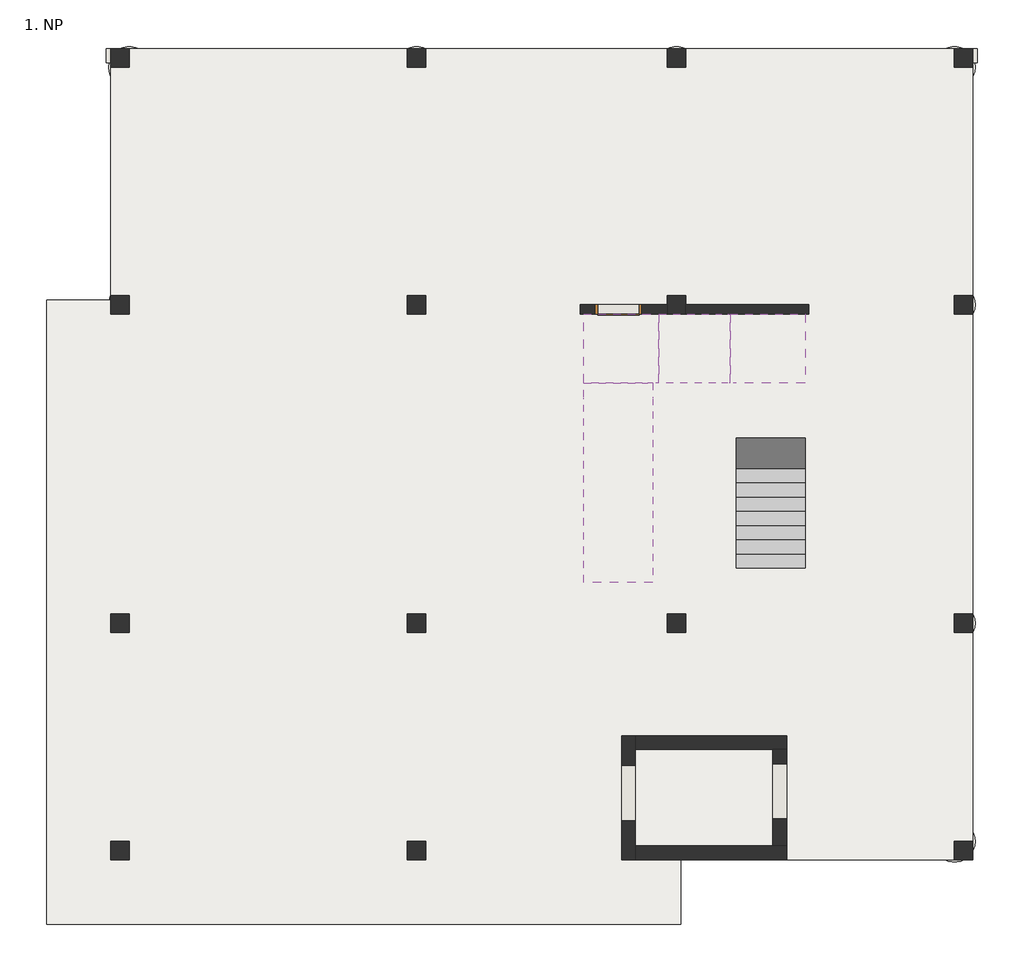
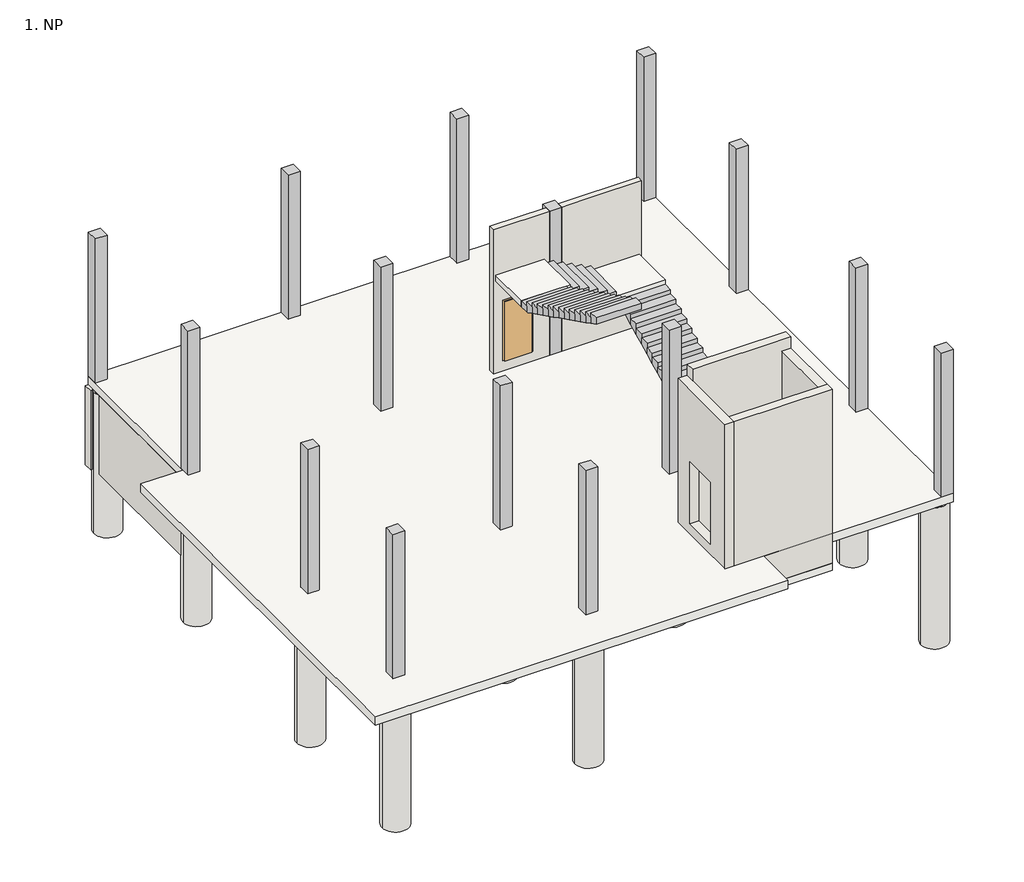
# One storey: 19 slabs, 15 columns, 9 walls, 3 stair flights, 1 door.
"""IFC4 building model written with IfcOpenShell, lengths in millimetres."""

from ifc_helpers import new_model, si_unit, frame, origin, place, context, project, spatial, polyline, outline, extrude, faceted_brep, transform, mapped, element, save
from components import door_900_x_2100_mm_d3767adf, slab_eaf7851d

model = new_model("IFC4")

# Units and contexts
model_context = context("Model", 3, world=origin())
ifc_project = project(units=[si_unit("LENGTHUNIT", "METRE", prefix="MILLI")], contexts=[model_context])

# Site, building, storey
site = spatial("IfcSite", under=ifc_project)
building = spatial("IfcBuilding", under=site)
storey = spatial("IfcBuildingStorey", under=building, Name="1. NP", Elevation=0.0)

# Columns
placement = place(None, origin())
element("IfcColumn", 1, ObjectType="K_Sloup obdélník : 400 x 400 mm", at=placement, inside=storey, context=model_context, shape_type="SweptSolid", body=[
    extrude(outline(polyline([(-9527.9308562, -5396.7473289), (-9527.9308562, -5796.7473289), (-9927.9308562, -5796.7473289), (-9927.9308562, -5396.7473289), (-9527.9308562, -5396.7473289)])), frame((0.0, 0.0, -350.0), z_axis=(0.0, 0.0, 1.0), x_axis=(1.0, 0.0, 0.0)), (0.0, 0.0, 1.0), 5100.0),
])
element("IfcColumn", 2, ObjectType="K_Sloup obdélník : 400 x 400 mm", at=placement, inside=storey, context=model_context, shape_type="SweptSolid", body=[
    extrude(outline(polyline([(-3077.9308562, -5396.7473289), (-3077.9308562, -5796.7473289), (-3477.9308562, -5796.7473289), (-3477.9308562, -5396.7473289), (-3077.9308562, -5396.7473289)])), frame((0.0, 0.0, -350.0), z_axis=(0.0, 0.0, 1.0), x_axis=(1.0, 0.0, 0.0)), (0.0, 0.0, 1.0), 5100.0),
])
element("IfcColumn", 3, ObjectType="K_Sloup obdélník : 400 x 400 mm", at=placement, inside=storey, context=model_context, shape_type="SweptSolid", body=[
    extrude(outline(polyline([(8822.0691438, -5396.7473289), (8822.0691438, -5796.7473289), (8422.0691438, -5796.7473289), (8422.0691438, -5396.7473289), (8822.0691438, -5396.7473289)])), frame((0.0, 0.0, -350.0), z_axis=(0.0, 0.0, 1.0), x_axis=(1.0, 0.0, 0.0)), (0.0, 0.0, 1.0), 5100.0),
])
element("IfcColumn", 4, ObjectType="K_Sloup obdélník : 400 x 400 mm", at=placement, inside=storey, context=model_context, shape_type="SweptSolid", body=[
    extrude(outline(polyline([(-9527.9308562, -446.7473314), (-9527.9308562, -846.7473314), (-9927.9308562, -846.7473314), (-9927.9308562, -446.7473314), (-9527.9308562, -446.7473314)])), frame((0.0, 0.0, -350.0), z_axis=(0.0, 0.0, 1.0), x_axis=(1.0, 0.0, 0.0)), (0.0, 0.0, 1.0), 5100.0),
])
element("IfcColumn", 5, ObjectType="K_Sloup obdélník : 400 x 400 mm", at=placement, inside=storey, context=model_context, shape_type="SweptSolid", body=[
    extrude(outline(polyline([(-3077.9308562, -446.7473314), (-3077.9308562, -846.7473314), (-3477.9308562, -846.7473314), (-3477.9308562, -446.7473314), (-3077.9308562, -446.7473314)])), frame((0.0, 0.0, -350.0), z_axis=(0.0, 0.0, 1.0), x_axis=(1.0, 0.0, 0.0)), (0.0, 0.0, 1.0), 5100.0),
])
element("IfcColumn", 6, ObjectType="K_Sloup obdélník : 400 x 400 mm", at=placement, inside=storey, context=model_context, shape_type="SweptSolid", body=[
    extrude(outline(polyline([(8822.0691438, -446.7473314), (8822.0691438, -846.7473314), (8422.0691438, -846.7473314), (8422.0691438, -446.7473314), (8822.0691438, -446.7473314)])), frame((0.0, 0.0, -350.0), z_axis=(0.0, 0.0, 1.0), x_axis=(1.0, 0.0, 0.0)), (0.0, 0.0, 1.0), 5100.0),
])
element("IfcColumn", 7, ObjectType="K_Sloup obdélník : 400 x 400 mm", at=placement, inside=storey, context=model_context, shape_type="SweptSolid", body=[
    extrude(outline(polyline([(-9527.9308562, 6483.2526657), (-9527.9308562, 6083.2526657), (-9927.9308562, 6083.2526657), (-9927.9308562, 6483.2526657), (-9527.9308562, 6483.2526657)])), frame((0.0, 0.0, -350.0), z_axis=(0.0, 0.0, 1.0), x_axis=(1.0, 0.0, 0.0)), (0.0, 0.0, 1.0), 5100.0),
])
element("IfcColumn", 8, ObjectType="K_Sloup obdélník : 400 x 400 mm", at=placement, inside=storey, context=model_context, shape_type="SweptSolid", body=[
    extrude(outline(polyline([(-3077.9308562, 6483.2526657), (-3077.9308562, 6083.2526657), (-3477.9308562, 6083.2526657), (-3477.9308562, 6483.2526657), (-3077.9308562, 6483.2526657)])), frame((0.0, 0.0, -350.0), z_axis=(0.0, 0.0, 1.0), x_axis=(1.0, 0.0, 0.0)), (0.0, 0.0, 1.0), 5100.0),
])
element("IfcColumn", 9, ObjectType="K_Sloup obdélník : 400 x 400 mm", at=placement, inside=storey, context=model_context, shape_type="SweptSolid", body=[
    extrude(outline(polyline([(2572.0691438, 6483.2526657), (2572.0691438, 6083.2526657), (2172.0691438, 6083.2526657), (2172.0691438, 6483.2526657), (2572.0691438, 6483.2526657)])), frame((0.0, 0.0, -350.0), z_axis=(0.0, 0.0, 1.0), x_axis=(1.0, 0.0, 0.0)), (0.0, 0.0, 1.0), 5100.0),
])
element("IfcColumn", 10, ObjectType="K_Sloup obdélník : 400 x 400 mm", at=placement, inside=storey, context=model_context, shape_type="SweptSolid", body=[
    extrude(outline(polyline([(8822.0691438, 6483.2526657), (8822.0691438, 6083.2526657), (8422.0691438, 6083.2526657), (8422.0691438, 6483.2526657), (8822.0691438, 6483.2526657)])), frame((0.0, 0.0, -350.0), z_axis=(0.0, 0.0, 1.0), x_axis=(1.0, 0.0, 0.0)), (0.0, 0.0, 1.0), 5100.0),
])
element("IfcColumn", 11, ObjectType="K_Sloup obdélník : 400 x 400 mm", at=placement, inside=storey, context=model_context, shape_type="SweptSolid", body=[
    extrude(outline(polyline([(-9527.9308562, 11853.2526657), (-9527.9308562, 11453.2526657), (-9927.9308562, 11453.2526657), (-9927.9308562, 11853.2526657), (-9527.9308562, 11853.2526657)])), frame((0.0, 0.0, -350.0), z_axis=(0.0, 0.0, 1.0), x_axis=(1.0, 0.0, 0.0)), (0.0, 0.0, 1.0), 5100.0),
])
element("IfcColumn", 12, ObjectType="K_Sloup obdélník : 400 x 400 mm", at=placement, inside=storey, context=model_context, shape_type="SweptSolid", body=[
    extrude(outline(polyline([(-3077.9308562, 11853.2526657), (-3077.9308562, 11453.2526657), (-3477.9308562, 11453.2526657), (-3477.9308562, 11853.2526657), (-3077.9308562, 11853.2526657)])), frame((0.0, 0.0, -350.0), z_axis=(0.0, 0.0, 1.0), x_axis=(1.0, 0.0, 0.0)), (0.0, 0.0, 1.0), 5100.0),
])
element("IfcColumn", 13, ObjectType="K_Sloup obdélník : 400 x 400 mm", at=placement, inside=storey, context=model_context, shape_type="SweptSolid", body=[
    extrude(outline(polyline([(2572.0691438, 11853.2526657), (2572.0691438, 11453.2526657), (2172.0691438, 11453.2526657), (2172.0691438, 11853.2526657), (2572.0691438, 11853.2526657)])), frame((0.0, 0.0, -350.0), z_axis=(0.0, 0.0, 1.0), x_axis=(1.0, 0.0, 0.0)), (0.0, 0.0, 1.0), 5100.0),
])
element("IfcColumn", 14, ObjectType="K_Sloup obdélník : 400 x 400 mm", at=placement, inside=storey, context=model_context, shape_type="SweptSolid", body=[
    extrude(outline(polyline([(8822.0691438, 11853.2526657), (8822.0691438, 11453.2526657), (8422.0691438, 11453.2526657), (8422.0691438, 11853.2526657), (8822.0691438, 11853.2526657)])), frame((0.0, 0.0, -350.0), z_axis=(0.0, 0.0, 1.0), x_axis=(1.0, 0.0, 0.0)), (0.0, 0.0, 1.0), 5100.0),
])
element("IfcColumn", 15, ObjectType="K_Sloup obdélník : 400 x 400 mm", at=placement, inside=storey, context=model_context, shape_type="SweptSolid", body=[
    extrude(outline(polyline([(2572.0691438, -446.7473314), (2572.0691438, -846.7473314), (2172.0691438, -846.7473314), (2172.0691438, -446.7473314), (2572.0691438, -446.7473314)])), frame((0.0, 0.0, -350.0), z_axis=(0.0, 0.0, 1.0), x_axis=(1.0, 0.0, 0.0)), (0.0, 0.0, 1.0), 5100.0),
])

# Door
door_900_x_2100_mm_shape = door_900_x_2100_mm_d3767adf(model_context)
element("IfcDoor", 16, ObjectType="R_Dveře 1-kř : 900 x 2100 mm", at=placement, inside=storey, context=model_context, shape_type="MappedRepresentation", body=[
    mapped(door_900_x_2100_mm_shape, transform((1112.0691438, 6183.2526711, 0.0), x_axis=(-1.0, 0.0, 0.0), y_axis=(0.0, -1.0, 0.0), z_axis=(0.0, 0.0, 1.0))),
])

# Slabs
element("IfcSlab", 17, ObjectType="Betonová deska 300 mm", at=placement, inside=storey, context=model_context, shape_type="SweptSolid", body=[
    extrude(outline(polyline([(-9927.9308562, 11853.2526657), (8822.0691438, 11853.2526657), (8822.0691438, -5796.7473289), (2472.0691438, -5796.7473289), (2472.0691438, -7196.7473343), (-11327.9308562, -7196.7473343), (-11327.9308562, 6383.2526657), (-9927.9308562, 6383.2526657), (-9927.9308562, 11853.2526657)]), holes=[polyline([(4472.0691438, -3396.7473289), (1482.0691438, -3396.7473289), (1482.0691438, -5496.7473289), (4472.0691438, -5496.7473289), (4472.0691438, -3396.7473289)])]), frame((0.0, 0.0, -650.0), z_axis=(0.0, 0.0, 1.0), x_axis=(1.0, 0.0, 0.0)), (0.0, 0.0, 1.0), 300.0),
])
element("IfcSlab", 18, ObjectType="Železobetnová stropní deska tl. 250 mm", at=placement, inside=storey, context=model_context, shape_type="SweptSolid", body=[
    extrude(outline(polyline([(4772.0691438, -3096.7473289), (4772.0691438, -5796.7473289), (1182.0691438, -5796.7473289), (1182.0691438, -3096.7473289), (4772.0691438, -3096.7473289)])), frame((0.0, 0.0, -1650.0), z_axis=(0.0, 0.0, 1.0), x_axis=(1.0, 0.0, 0.0)), (0.0, 0.0, 1.0), 250.0),
])
slab_shape = slab_eaf7851d(model_context)
element("IfcSlab", 19, ObjectType="R_Pilota kruhová : Pilota průměr 900 mm", at=placement, inside=storey, context=model_context, shape_type="MappedRepresentation", body=[
    mapped(slab_shape, transform((-9527.9308562, 11453.2526657, -650.0), x_axis=(1.0, 0.0, 0.0), y_axis=(0.0, 1.0, 0.0), z_axis=(0.0, 0.0, 1.0))),
])
element("IfcSlab", 20, ObjectType="R_Pilota kruhová : Pilota průměr 900 mm", at=placement, inside=storey, context=model_context, shape_type="MappedRepresentation", body=[
    mapped(slab_shape, transform((-3277.9308562, 11453.2526657, -650.0), x_axis=(1.0, 0.0, 0.0), y_axis=(0.0, 1.0, 0.0), z_axis=(0.0, 0.0, 1.0))),
])
element("IfcSlab", 21, ObjectType="R_Pilota kruhová : Pilota průměr 900 mm", at=placement, inside=storey, context=model_context, shape_type="MappedRepresentation", body=[
    mapped(slab_shape, transform((2372.0691438, 11453.2526657, -650.0), x_axis=(1.0, 0.0, 0.0), y_axis=(0.0, 1.0, 0.0), z_axis=(0.0, 0.0, 1.0))),
])
element("IfcSlab", 22, ObjectType="R_Pilota kruhová : Pilota průměr 900 mm", at=placement, inside=storey, context=model_context, shape_type="MappedRepresentation", body=[
    mapped(slab_shape, transform((8422.0691438, 11453.2526657, -650.0), x_axis=(1.0, 0.0, 0.0), y_axis=(0.0, 1.0, 0.0), z_axis=(0.0, 0.0, 1.0))),
])
element("IfcSlab", 23, ObjectType="R_Pilota kruhová : Pilota průměr 900 mm", at=placement, inside=storey, context=model_context, shape_type="MappedRepresentation", body=[
    mapped(slab_shape, transform((-9527.9308562, 6283.2526657, -650.0), x_axis=(1.0, 0.0, 0.0), y_axis=(0.0, 1.0, 0.0), z_axis=(0.0, 0.0, 1.0))),
])
element("IfcSlab", 24, ObjectType="R_Pilota kruhová : Pilota průměr 900 mm", at=placement, inside=storey, context=model_context, shape_type="MappedRepresentation", body=[
    mapped(slab_shape, transform((-3277.9308562, 6283.2526657, -650.0), x_axis=(1.0, 0.0, 0.0), y_axis=(0.0, 1.0, 0.0), z_axis=(0.0, 0.0, 1.0))),
])
element("IfcSlab", 25, ObjectType="R_Pilota kruhová : Pilota průměr 900 mm", at=placement, inside=storey, context=model_context, shape_type="MappedRepresentation", body=[
    mapped(slab_shape, transform((2372.0691438, 6283.2526657, -650.0), x_axis=(1.0, 0.0, 0.0), y_axis=(0.0, 1.0, 0.0), z_axis=(0.0, 0.0, 1.0))),
])
element("IfcSlab", 26, ObjectType="R_Pilota kruhová : Pilota průměr 900 mm", at=placement, inside=storey, context=model_context, shape_type="MappedRepresentation", body=[
    mapped(slab_shape, transform((8422.0691438, 6283.2526657, -650.0), x_axis=(1.0, 0.0, 0.0), y_axis=(0.0, 1.0, 0.0), z_axis=(0.0, 0.0, 1.0))),
])
element("IfcSlab", 27, ObjectType="R_Pilota kruhová : Pilota průměr 900 mm", at=placement, inside=storey, context=model_context, shape_type="MappedRepresentation", body=[
    mapped(slab_shape, transform((-9727.9308562, -646.7473314, -650.0), x_axis=(1.0, 0.0, 0.0), y_axis=(0.0, 1.0, 0.0), z_axis=(0.0, 0.0, 1.0))),
])
element("IfcSlab", 28, ObjectType="R_Pilota kruhová : Pilota průměr 900 mm", at=placement, inside=storey, context=model_context, shape_type="MappedRepresentation", body=[
    mapped(slab_shape, transform((-3277.9308562, -646.7473314, -650.0), x_axis=(1.0, 0.0, 0.0), y_axis=(0.0, 1.0, 0.0), z_axis=(0.0, 0.0, 1.0))),
])
element("IfcSlab", 29, ObjectType="R_Pilota kruhová : Pilota průměr 900 mm", at=placement, inside=storey, context=model_context, shape_type="MappedRepresentation", body=[
    mapped(slab_shape, transform((2372.0691438, -646.7473314, -650.0), x_axis=(1.0, 0.0, 0.0), y_axis=(0.0, 1.0, 0.0), z_axis=(0.0, 0.0, 1.0))),
])
element("IfcSlab", 30, ObjectType="R_Pilota kruhová : Pilota průměr 900 mm", at=placement, inside=storey, context=model_context, shape_type="MappedRepresentation", body=[
    mapped(slab_shape, transform((8422.0691438, -646.7473314, -650.0), x_axis=(1.0, 0.0, 0.0), y_axis=(0.0, 1.0, 0.0), z_axis=(0.0, 0.0, 1.0))),
])
element("IfcSlab", 31, ObjectType="R_Pilota kruhová : Pilota průměr 900 mm", at=placement, inside=storey, context=model_context, shape_type="MappedRepresentation", body=[
    mapped(slab_shape, transform((-9727.9308562, -5596.7473289, -650.0), x_axis=(1.0, 0.0, 0.0), y_axis=(0.0, 1.0, 0.0), z_axis=(0.0, 0.0, 1.0))),
])
element("IfcSlab", 32, ObjectType="R_Pilota kruhová : Pilota průměr 900 mm", at=placement, inside=storey, context=model_context, shape_type="MappedRepresentation", body=[
    mapped(slab_shape, transform((-3277.9308562, -5596.7473289, -650.0), x_axis=(1.0, 0.0, 0.0), y_axis=(0.0, 1.0, 0.0), z_axis=(0.0, 0.0, 1.0))),
])
element("IfcSlab", 33, ObjectType="R_Pilota kruhová : Pilota průměr 900 mm", at=placement, inside=storey, context=model_context, shape_type="MappedRepresentation", body=[
    mapped(slab_shape, transform((8422.0691438, -5396.7473289, -650.0), x_axis=(1.0, 0.0, 0.0), y_axis=(0.0, 1.0, 0.0), z_axis=(0.0, 0.0, 1.0))),
])
element("IfcSlab", 34, ObjectType="200 mm", at=placement, inside=storey, context=model_context, shape_type="Brep", body=[
    faceted_brep([(3672.0691438, 4583.2526711, 2184.8484848), (5172.0691438, 4583.2526711, 2184.8484848), (5172.0691438, 4940.7549221, 2184.8484848), (5172.0691438, 6083.2526711, 2184.8484848), (3542.0691438, 6083.2526711, 2184.8484848), (3542.0691438, 4583.2526711, 2184.8484848), (3672.0691438, 4583.2526711, 1984.8484848), (3672.0691438, 4583.2526711, 1804.8742334), (5172.0691438, 4583.2526711, 1804.8742334), (5172.0691438, 4583.2526711, 2028.7878788), (3542.0691438, 4583.2526711, 1984.8484848), (5172.0691438, 6083.2526711, 1984.8484848), (3542.0691438, 6083.2526711, 1984.8484848), (5172.0691438, 4940.7549221, 1984.8484848), (3672.0691438, 4940.7549221, 1984.8484848)], [[[0, 1, 2, 3, 4, 5]], [[1, 0, 6, 7, 8, 9]], [[0, 5, 10, 6]], [[4, 3, 11, 12]], [[1, 9, 8, 13, 11, 3, 2]], [[13, 14, 6, 10, 12, 11]], [[14, 13, 8, 7]], [[6, 14, 7]], [[5, 4, 12, 10]]]),
])
element("IfcSlab", 35, ObjectType="200 mm", at=placement, inside=storey, context=model_context, shape_type="Brep", body=[
    faceted_brep([(1992.0691438, 4583.2526711, 3121.2121212), (1992.0691438, 6083.2526711, 3121.2121212), (1634.5668927, 6083.2526711, 3121.2121212), (362.0691438, 6083.2526711, 3121.2121212), (362.0691438, 4583.2526711, 3121.2121212), (1862.0691438, 4583.2526711, 3121.2121212), (1992.0691438, 4583.2526711, 2965.1515152), (1992.0691438, 4583.2526711, 2741.2378697), (1992.0691438, 6083.2526711, 2741.2378697), (1992.0691438, 6083.2526711, 2965.1515152), (1862.0691438, 4583.2526711, 2921.2121212), (1862.0691438, 4583.2526711, 2806.68264), (362.0691438, 6083.2526711, 2921.2121212), (362.0691438, 4583.2526711, 2921.2121212), (1634.5668927, 6083.2526711, 2921.2121212), (1634.5668927, 4583.2526711, 2921.2121212)], [[[0, 1, 2, 3, 4, 5]], [[1, 0, 6, 7, 8, 9]], [[0, 5, 10, 11, 7, 6]], [[4, 3, 12, 13]], [[1, 9, 8, 14, 12, 3, 2]], [[14, 15, 13, 12]], [[15, 14, 8, 7, 11]], [[5, 4, 13, 15, 11, 10]]]),
])

# Stair flights
element("IfcStairFlight", 36, ObjectType="200 mm", at=placement, inside=storey, context=model_context, shape_type="Brep", body=[
    faceted_brep([(3672.0691438, 863.2526711, 156.0606061), (3672.0691438, 553.2526711, 156.0606061), (5172.0691438, 553.2526711, 156.0606061), (5172.0691438, 863.2526711, 156.0606061), (5172.0691438, 553.2526711, 0.0), (5172.0691438, 863.2526711, 0.0), (3672.0691438, 553.2526711, 0.0), (3672.0691438, 863.2526711, 0.0), (3672.0691438, 1173.2526711, 312.1212121), (3672.0691438, 863.2526711, 312.1212121), (5172.0691438, 863.2526711, 312.1212121), (5172.0691438, 1173.2526711, 312.1212121), (5172.0691438, 998.0364755, 0.0), (5172.0691438, 1173.2526711, 88.2075667), (3672.0691438, 1173.2526711, 88.2075667), (3672.0691438, 998.0364755, 0.0), (3672.0691438, 1483.2526711, 468.1818182), (3672.0691438, 1173.2526711, 468.1818182), (5172.0691438, 1173.2526711, 468.1818182), (5172.0691438, 1483.2526711, 468.1818182), (5172.0691438, 1483.2526711, 244.2681728), (3672.0691438, 1483.2526711, 244.2681728), (3672.0691438, 1793.2526711, 624.2424242), (3672.0691438, 1483.2526711, 624.2424242), (5172.0691438, 1483.2526711, 624.2424242), (5172.0691438, 1793.2526711, 624.2424242), (5172.0691438, 1793.2526711, 400.3287788), (3672.0691438, 1793.2526711, 400.3287788), (3672.0691438, 2103.2526711, 780.3030303), (3672.0691438, 1793.2526711, 780.3030303), (5172.0691438, 1793.2526711, 780.3030303), (5172.0691438, 2103.2526711, 780.3030303), (5172.0691438, 2103.2526711, 556.3893849), (3672.0691438, 2103.2526711, 556.3893849), (3672.0691438, 2413.2526711, 936.3636364), (3672.0691438, 2103.2526711, 936.3636364), (5172.0691438, 2103.2526711, 936.3636364), (5172.0691438, 2413.2526711, 936.3636364), (5172.0691438, 2413.2526711, 712.4499909), (3672.0691438, 2413.2526711, 712.4499909), (3672.0691438, 2723.2526711, 1092.4242424), (3672.0691438, 2413.2526711, 1092.4242424), (5172.0691438, 2413.2526711, 1092.4242424), (5172.0691438, 2723.2526711, 1092.4242424), (5172.0691438, 2723.2526711, 868.510597), (3672.0691438, 2723.2526711, 868.510597), (3672.0691438, 3033.2526711, 1248.4848485), (3672.0691438, 2723.2526711, 1248.4848485), (5172.0691438, 2723.2526711, 1248.4848485), (5172.0691438, 3033.2526711, 1248.4848485), (5172.0691438, 3033.2526711, 1024.5712031), (3672.0691438, 3033.2526711, 1024.5712031), (3672.0691438, 3343.2526711, 1404.5454545), (3672.0691438, 3033.2526711, 1404.5454545), (5172.0691438, 3033.2526711, 1404.5454545), (5172.0691438, 3343.2526711, 1404.5454545), (5172.0691438, 3343.2526711, 1180.6318091), (3672.0691438, 3343.2526711, 1180.6318091), (3672.0691438, 3653.2526711, 1560.6060606), (3672.0691438, 3343.2526711, 1560.6060606), (5172.0691438, 3343.2526711, 1560.6060606), (5172.0691438, 3653.2526711, 1560.6060606), (5172.0691438, 3653.2526711, 1336.6924152), (3672.0691438, 3653.2526711, 1336.6924152), (3672.0691438, 3963.2526711, 1716.6666667), (3672.0691438, 3653.2526711, 1716.6666667), (5172.0691438, 3653.2526711, 1716.6666667), (5172.0691438, 3963.2526711, 1716.6666667), (5172.0691438, 3963.2526711, 1492.7530212), (3672.0691438, 3963.2526711, 1492.7530212), (3672.0691438, 4273.2526711, 1872.7272727), (3672.0691438, 3963.2526711, 1872.7272727), (5172.0691438, 3963.2526711, 1872.7272727), (5172.0691438, 4273.2526711, 1872.7272727), (5172.0691438, 4273.2526711, 1648.8136273), (3672.0691438, 4273.2526711, 1648.8136273), (3672.0691438, 4583.2526711, 2028.7878788), (3672.0691438, 4273.2526711, 2028.7878788), (5172.0691438, 4273.2526711, 2028.7878788), (5172.0691438, 4583.2526711, 2028.7878788), (5172.0691438, 4583.2526711, 1804.8742334), (3672.0691438, 4583.2526711, 1984.8484848), (3672.0691438, 4583.2526711, 1804.8742334)], [[[0, 1, 2, 3]], [[3, 2, 4, 5]], [[2, 1, 6, 4]], [[1, 0, 7, 6]], [[8, 9, 10, 11]], [[3, 5, 12, 13, 11, 10]], [[0, 3, 10, 9]], [[7, 0, 9, 8, 14, 15]], [[16, 17, 18, 19]], [[19, 18, 11, 13, 20]], [[8, 11, 18, 17]], [[17, 16, 21, 14, 8]], [[22, 23, 24, 25]], [[25, 24, 19, 20, 26]], [[16, 19, 24, 23]], [[23, 22, 27, 21, 16]], [[28, 29, 30, 31]], [[31, 30, 25, 26, 32]], [[22, 25, 30, 29]], [[29, 28, 33, 27, 22]], [[34, 35, 36, 37]], [[37, 36, 31, 32, 38]], [[28, 31, 36, 35]], [[35, 34, 39, 33, 28]], [[40, 41, 42, 43]], [[43, 42, 37, 38, 44]], [[34, 37, 42, 41]], [[41, 40, 45, 39, 34]], [[46, 47, 48, 49]], [[49, 48, 43, 44, 50]], [[40, 43, 48, 47]], [[47, 46, 51, 45, 40]], [[52, 53, 54, 55]], [[55, 54, 49, 50, 56]], [[46, 49, 54, 53]], [[53, 52, 57, 51, 46]], [[58, 59, 60, 61]], [[61, 60, 55, 56, 62]], [[52, 55, 60, 59]], [[59, 58, 63, 57, 52]], [[64, 65, 66, 67]], [[67, 66, 61, 62, 68]], [[58, 61, 66, 65]], [[65, 64, 69, 63, 58]], [[70, 71, 72, 73]], [[73, 72, 67, 68, 74]], [[64, 67, 72, 71]], [[71, 70, 75, 69, 64]], [[76, 77, 78, 79]], [[79, 78, 73, 74, 80]], [[70, 73, 78, 77]], [[77, 76, 81, 82, 75, 70]], [[76, 79, 80, 82, 81]], [[6, 7, 15, 12, 5, 4]], [[12, 15, 14, 21, 27, 33, 39, 45, 51, 57, 63, 69, 75, 82, 80, 74, 68, 62, 56, 50, 44, 38, 32, 26, 20, 13]]]),
])
element("IfcStairFlight", 37, ObjectType="200 mm", at=placement, inside=storey, context=model_context, shape_type="Brep", body=[
    faceted_brep([(3542.0691438, 4583.2526711, 2340.9090909), (3542.0691438, 6083.2526711, 2340.9090909), (3494.5668927, 6083.2526711, 2340.9090909), (3232.0691438, 6083.2526711, 2340.9090909), (3232.0691438, 4583.2526711, 2340.9090909), (3494.5668927, 4583.2526711, 2340.9090909), (3542.0691438, 6083.2526711, 2184.8484848), (3542.0691438, 6083.2526711, 1984.8484848), (3494.5668927, 6083.2526711, 1984.8484848), (3232.0691438, 6083.2526711, 2116.9954455), (3542.0691438, 4583.2526711, 2184.8484848), (3542.0691438, 4583.2526711, 1984.8484848), (3232.0691438, 4583.2526711, 2116.9954455), (3494.5668927, 4583.2526711, 1984.8484848), (2922.0691438, 4583.2526711, 2496.969697), (3232.0691438, 4583.2526711, 2496.969697), (3232.0691438, 6083.2526711, 2496.969697), (2922.0691438, 6083.2526711, 2496.969697), (2922.0691438, 6083.2526711, 2273.0560515), (2922.0691438, 4583.2526711, 2273.0560515), (2612.0691438, 4583.2526711, 2653.030303), (2922.0691438, 4583.2526711, 2653.030303), (2922.0691438, 6083.2526711, 2653.030303), (2612.0691438, 6083.2526711, 2653.030303), (2612.0691438, 6083.2526711, 2429.1166576), (2612.0691438, 4583.2526711, 2429.1166576), (2302.0691438, 4583.2526711, 2809.0909091), (2612.0691438, 4583.2526711, 2809.0909091), (2612.0691438, 6083.2526711, 2809.0909091), (2302.0691438, 6083.2526711, 2809.0909091), (2302.0691438, 6083.2526711, 2585.1772637), (2302.0691438, 4583.2526711, 2585.1772637), (1992.0691438, 4583.2526711, 2965.1515152), (2302.0691438, 4583.2526711, 2965.1515152), (2302.0691438, 6083.2526711, 2965.1515152), (1992.0691438, 6083.2526711, 2965.1515152), (1992.0691438, 6083.2526711, 2741.2378697), (1992.0691438, 4583.2526711, 2741.2378697)], [[[0, 1, 2, 3, 4, 5]], [[1, 6, 7, 8, 9, 3, 2]], [[1, 0, 10, 11, 7, 6]], [[4, 12, 13, 11, 10, 0, 5]], [[14, 15, 16, 17]], [[17, 16, 3, 9, 18]], [[16, 15, 4, 3]], [[15, 14, 19, 12, 4]], [[20, 21, 22, 23]], [[23, 22, 17, 18, 24]], [[22, 21, 14, 17]], [[21, 20, 25, 19, 14]], [[26, 27, 28, 29]], [[29, 28, 23, 24, 30]], [[28, 27, 20, 23]], [[27, 26, 31, 25, 20]], [[32, 33, 34, 35]], [[35, 34, 29, 30, 36]], [[34, 33, 26, 29]], [[33, 32, 37, 31, 26]], [[32, 35, 36, 37]], [[8, 13, 12, 19, 25, 31, 37, 36, 30, 24, 18, 9]], [[13, 8, 7, 11]]]),
])
element("IfcStairFlight", 38, ObjectType="200 mm", at=placement, inside=storey, context=model_context, shape_type="Brep", body=[
    faceted_brep([(1862.0691438, 4273.2526711, 3121.2121212), (1862.0691438, 4583.2526711, 3121.2121212), (1634.5668927, 4583.2526711, 3121.2121212), (362.0691438, 4583.2526711, 3121.2121212), (362.0691438, 4273.2526711, 3121.2121212), (362.0691438, 4583.2526711, 2921.2121212), (362.0691438, 4273.2526711, 2921.2121212), (1862.0691438, 4583.2526711, 2921.2121212), (1634.5668927, 4583.2526711, 2921.2121212), (1862.0691438, 4273.2526711, 2921.2121212), (1862.0691438, 4273.2526711, 3277.2727273), (362.0691438, 4273.2526711, 3277.2727273), (362.0691438, 4225.75042, 3277.2727273), (362.0691438, 3963.2526711, 3277.2727273), (1862.0691438, 3963.2526711, 3277.2727273), (1862.0691438, 4225.75042, 3277.2727273), (362.0691438, 4225.75042, 2921.2121212), (362.0691438, 3963.2526711, 3053.3590818), (1862.0691438, 3963.2526711, 3053.3590818), (1862.0691438, 4225.75042, 2921.2121212), (1862.0691438, 3653.2526711, 3433.3333333), (1862.0691438, 3963.2526711, 3433.3333333), (362.0691438, 3963.2526711, 3433.3333333), (362.0691438, 3653.2526711, 3433.3333333), (362.0691438, 3653.2526711, 3209.4196879), (1862.0691438, 3653.2526711, 3209.4196879), (1862.0691438, 3343.2526711, 3589.3939394), (1862.0691438, 3653.2526711, 3589.3939394), (362.0691438, 3653.2526711, 3589.3939394), (362.0691438, 3343.2526711, 3589.3939394), (362.0691438, 3343.2526711, 3365.480294), (1862.0691438, 3343.2526711, 3365.480294), (1862.0691438, 3033.2526711, 3745.4545455), (1862.0691438, 3343.2526711, 3745.4545455), (362.0691438, 3343.2526711, 3745.4545455), (362.0691438, 3033.2526711, 3745.4545455), (362.0691438, 3033.2526711, 3521.5409), (1862.0691438, 3033.2526711, 3521.5409), (1862.0691438, 2723.2526711, 3901.5151515), (1862.0691438, 3033.2526711, 3901.5151515), (362.0691438, 3033.2526711, 3901.5151515), (362.0691438, 2723.2526711, 3901.5151515), (362.0691438, 2723.2526711, 3677.6015061), (1862.0691438, 2723.2526711, 3677.6015061), (1862.0691438, 2413.2526711, 4057.5757576), (1862.0691438, 2723.2526711, 4057.5757576), (362.0691438, 2723.2526711, 4057.5757576), (362.0691438, 2413.2526711, 4057.5757576), (362.0691438, 2413.2526711, 3833.6621121), (1862.0691438, 2413.2526711, 3833.6621121), (1862.0691438, 2103.2526711, 4213.6363636), (1862.0691438, 2413.2526711, 4213.6363636), (362.0691438, 2413.2526711, 4213.6363636), (362.0691438, 2103.2526711, 4213.6363636), (362.0691438, 2103.2526711, 3989.7227182), (1862.0691438, 2103.2526711, 3989.7227182), (1862.0691438, 1793.2526711, 4369.6969697), (1862.0691438, 2103.2526711, 4369.6969697), (362.0691438, 2103.2526711, 4369.6969697), (362.0691438, 1793.2526711, 4369.6969697), (362.0691438, 1793.2526711, 4145.7833243), (1862.0691438, 1793.2526711, 4145.7833243), (1862.0691438, 1483.2526711, 4525.7575758), (1862.0691438, 1793.2526711, 4525.7575758), (362.0691438, 1793.2526711, 4525.7575758), (362.0691438, 1483.2526711, 4525.7575758), (362.0691438, 1483.2526711, 4301.8439303), (1862.0691438, 1483.2526711, 4301.8439303), (1862.0691438, 1173.2526711, 4681.8181818), (1862.0691438, 1483.2526711, 4681.8181818), (362.0691438, 1483.2526711, 4681.8181818), (362.0691438, 1173.2526711, 4681.8181818), (362.0691438, 1173.2526711, 4457.9045364), (1862.0691438, 1173.2526711, 4457.9045364), (1862.0691438, 863.2526711, 4837.8787879), (1862.0691438, 1173.2526711, 4837.8787879), (362.0691438, 1173.2526711, 4837.8787879), (362.0691438, 863.2526711, 4837.8787879), (362.0691438, 863.2526711, 4613.9651424), (1862.0691438, 863.2526711, 4613.9651424), (1862.0691438, 553.2526711, 4993.9393939), (1862.0691438, 863.2526711, 4993.9393939), (362.0691438, 863.2526711, 4993.9393939), (362.0691438, 553.2526711, 4993.9393939), (362.0691438, 553.2526711, 4770.0257485), (1862.0691438, 553.2526711, 4770.0257485), (1862.0691438, 243.2526711, 5150.0), (1862.0691438, 553.2526711, 5150.0), (362.0691438, 553.2526711, 5150.0), (362.0691438, 243.2526711, 5150.0), (362.0691438, 243.2526711, 4926.0863546), (1862.0691438, 243.2526711, 4926.0863546)], [[[0, 1, 2, 3, 4]], [[4, 3, 5, 6]], [[2, 1, 7, 8, 5, 3]], [[1, 0, 9, 7]], [[10, 11, 12, 13, 14, 15]], [[11, 4, 6, 16, 17, 13, 12]], [[11, 10, 0, 4]], [[0, 10, 15, 14, 18, 19, 9]], [[20, 21, 22, 23]], [[23, 22, 13, 17, 24]], [[22, 21, 14, 13]], [[21, 20, 25, 18, 14]], [[26, 27, 28, 29]], [[29, 28, 23, 24, 30]], [[28, 27, 20, 23]], [[27, 26, 31, 25, 20]], [[32, 33, 34, 35]], [[35, 34, 29, 30, 36]], [[34, 33, 26, 29]], [[33, 32, 37, 31, 26]], [[38, 39, 40, 41]], [[41, 40, 35, 36, 42]], [[40, 39, 32, 35]], [[39, 38, 43, 37, 32]], [[44, 45, 46, 47]], [[47, 46, 41, 42, 48]], [[46, 45, 38, 41]], [[45, 44, 49, 43, 38]], [[50, 51, 52, 53]], [[53, 52, 47, 48, 54]], [[52, 51, 44, 47]], [[51, 50, 55, 49, 44]], [[56, 57, 58, 59]], [[59, 58, 53, 54, 60]], [[58, 57, 50, 53]], [[57, 56, 61, 55, 50]], [[62, 63, 64, 65]], [[65, 64, 59, 60, 66]], [[64, 63, 56, 59]], [[63, 62, 67, 61, 56]], [[68, 69, 70, 71]], [[71, 70, 65, 66, 72]], [[70, 69, 62, 65]], [[69, 68, 73, 67, 62]], [[74, 75, 76, 77]], [[77, 76, 71, 72, 78]], [[76, 75, 68, 71]], [[75, 74, 79, 73, 68]], [[80, 81, 82, 83]], [[83, 82, 77, 78, 84]], [[82, 81, 74, 77]], [[81, 80, 85, 79, 74]], [[86, 87, 88, 89]], [[89, 88, 83, 84, 90]], [[88, 87, 80, 83]], [[87, 86, 91, 85, 80]], [[86, 89, 90, 91]], [[16, 19, 18, 25, 31, 37, 43, 49, 55, 61, 67, 73, 79, 85, 91, 90, 84, 78, 72, 66, 60, 54, 48, 42, 36, 30, 24, 17]], [[19, 16, 6, 5, 8, 7, 9]]]),
])

# Walls
element("IfcWall", 39, ObjectType="Železobetonové zdivo tl. 200 mm", at=placement, inside=storey, context=model_context, shape_type="Brep", body=[
    faceted_brep([(2572.0691438, 6083.2526711, -350.0), (5247.0691438, 6083.2526711, -350.0), (5247.0691438, 6083.2526711, 4750.0), (3672.0691438, 6083.2526711, 4750.0), (2572.0691438, 6083.2526711, 4750.0), (2572.0691438, 6283.2526711, -350.0), (2572.0691438, 6283.2526711, 4750.0), (5247.0691438, 6283.2526711, 4750.0), (5247.0691438, 6283.2526711, -350.0)], [[[0, 1, 2, 3, 4]], [[5, 6, 7, 8]], [[1, 0, 5, 8]], [[2, 1, 8, 7]], [[0, 4, 6, 5]], [[4, 3, 2, 7, 6]]]),
])
element("IfcWall", 40, ObjectType="Železobetonové zdivo tl. 300 mm", at=placement, inside=storey, context=model_context, shape_type="Brep", body=[
    faceted_brep([(1482.0691438, -5796.7473289, -1403.158331), (1482.0691438, -3096.7473289, -1403.158331), (1482.0691438, -3096.7473289, -1400.0), (1482.0691438, -3096.7473289, 4750.0), (1482.0691438, -3396.7473289, 4750.0), (1482.0691438, -5496.7473289, 4750.0), (1482.0691438, -5796.7473289, 4750.0), (1482.0691438, -5796.7473289, -1400.0), (1482.0691438, -4946.7473289, 2200.0), (1482.0691438, -3746.7473289, 2200.0), (1482.0691438, -3746.7473289, 0.0), (1482.0691438, -4946.7473289, 0.0), (1182.0691438, -3096.7473289, -1403.158331), (1182.0691438, -5796.7473289, -1403.158331), (1182.0691438, -5796.7473289, 4750.0), (1182.0691438, -3096.7473289, 4750.0), (1182.0691438, -3746.7473289, 2200.0), (1182.0691438, -4946.7473289, 2200.0), (1182.0691438, -4946.7473289, 0.0), (1182.0691438, -3746.7473289, 0.0)], [[[0, 1, 2, 3, 4, 5, 6, 7], [8, 9, 10, 11]], [[12, 13, 14, 15], [16, 17, 18, 19]], [[1, 0, 13, 12]], [[3, 2, 1, 12, 15]], [[8, 17, 16, 9]], [[9, 16, 19, 10]], [[10, 19, 18, 11]], [[17, 8, 11, 18]], [[0, 7, 6, 14, 13]], [[15, 14, 6, 5, 4, 3]]]),
])
element("IfcWall", 41, ObjectType="Železobetonové zdivo tl. 300 mm", at=placement, inside=storey, context=model_context, shape_type="Brep", body=[
    faceted_brep([(1482.0691438, -3396.7473289, -1400.0), (4472.0691438, -3396.7473289, -1400.0), (4772.0691438, -3396.7473289, -1400.0), (4772.0691438, -3396.7473289, 4750.0), (4772.0691438, -3396.7473289, 5150.0), (1482.0691438, -3396.7473289, 5150.0), (1482.0691438, -3096.7473289, -1400.0), (1482.0691438, -3096.7473289, 4750.0), (1482.0691438, -3096.7473289, 5150.0), (4772.0691438, -3096.7473289, 5150.0), (4772.0691438, -3096.7473289, -1400.0)], [[[0, 1, 2, 3, 4, 5]], [[6, 7, 8, 9, 10]], [[5, 4, 9, 8]], [[0, 5, 8, 7, 6]], [[4, 3, 2, 10, 9]], [[2, 1, 0, 6, 10]]]),
])
element("IfcWall", 42, ObjectType="Železobetonové zdivo tl. 300 mm", at=placement, inside=storey, context=model_context, shape_type="SweptSolid", body=[
    extrude(outline(polyline([(-3396.7473289, -1400.0), (-5496.7473289, -1400.0), (-5496.7473289, 4750.0), (-3396.7473289, 4750.0), (-3396.7473289, -1400.0)]), holes=[polyline([(-4906.7473289, 2200.0), (-4906.7473289, 0.0), (-3706.7473289, 0.0), (-3706.7473289, 2200.0), (-4906.7473289, 2200.0)])]), frame((4472.0691438, 0.0, 0.0), z_axis=(1.0, 0.0, 0.0), x_axis=(0.0, 1.0, 0.0)), (0.0, 0.0, 1.0), 300.0),
])
element("IfcWall", 43, ObjectType="Železobetonové zdivo tl. 300 mm", at=placement, inside=storey, context=model_context, shape_type="Brep", body=[
    faceted_brep([(4772.0691438, -5496.7473289, -1400.0), (4472.0691438, -5496.7473289, -1400.0), (1482.0691438, -5496.7473289, -1400.0), (1482.0691438, -5496.7473289, 4750.0), (4472.0691438, -5496.7473289, 4750.0), (4772.0691438, -5496.7473289, 4750.0), (4772.0691438, -5796.7473289, -1400.0), (4772.0691438, -5796.7473289, 4750.0), (1482.0691438, -5796.7473289, 4750.0), (1482.0691438, -5796.7473289, -1400.0)], [[[0, 1, 2, 3, 4, 5]], [[6, 7, 8, 9]], [[2, 1, 0, 6, 9]], [[0, 5, 7, 6]], [[3, 2, 9, 8]], [[5, 4, 3, 8, 7]]]),
])
element("IfcWall", 44, ObjectType="Železobetonové zdivo tl. 200 mm", at=placement, inside=storey, context=model_context, shape_type="Brep", body=[
    faceted_brep([(287.0691438, 6083.2526711, -350.0), (2172.0691438, 6083.2526711, -350.0), (2172.0691438, 6083.2526711, 4750.0), (362.0691438, 6083.2526711, 4750.0), (287.0691438, 6083.2526711, 4750.0), (612.0691438, 6083.2526711, 0.0), (612.0691438, 6083.2526711, 2150.0), (1612.0691438, 6083.2526711, 2150.0), (1612.0691438, 6083.2526711, 0.0), (287.0691438, 6283.2526711, -350.0), (287.0691438, 6283.2526711, 4750.0), (2172.0691438, 6283.2526711, 4750.0), (2172.0691438, 6283.2526711, -350.0), (612.0691438, 6283.2526711, 0.0), (1612.0691438, 6283.2526711, 0.0), (1612.0691438, 6283.2526711, 2150.0), (612.0691438, 6283.2526711, 2150.0)], [[[0, 1, 2, 3, 4], [5, 6, 7, 8]], [[9, 10, 11, 12], [13, 14, 15, 16]], [[2, 1, 12, 11]], [[0, 4, 10, 9]], [[1, 0, 9, 12]], [[5, 8, 14, 13]], [[8, 7, 15, 14]], [[7, 6, 16, 15]], [[6, 5, 13, 16]], [[4, 3, 2, 11, 10]]]),
])
element("IfcWall", 45, ObjectType="Železobetonové zdivo tl. 300 mm", at=placement, inside=storey, context=model_context, shape_type="SweptSolid", body=[
    extrude(outline(polyline([(-10027.9308562, 11853.2526657), (8922.0691438, 11853.2526657), (8922.0691438, 11553.2526657), (-10027.9308562, 11553.2526657), (-10027.9308562, 11853.2526657)])), frame((0.0, 0.0, -3440.0), z_axis=(0.0, 0.0, 1.0), x_axis=(1.0, 0.0, 0.0)), (0.0, 0.0, 1.0), 2790.0),
])
element("IfcWall", 46, ObjectType="Železobetonové zdivo tl. 300 mm", at=placement, inside=storey, context=model_context, shape_type="SweptSolid", body=[
    extrude(outline(polyline([(-9927.9308562, 6383.2526657), (-9927.9308562, 11483.2526657), (-9627.9308562, 11483.2526657), (-9627.9308562, 6383.2526657), (-9927.9308562, 6383.2526657)])), frame((0.0, 0.0, -3440.0), z_axis=(0.0, 0.0, 1.0), x_axis=(1.0, 0.0, 0.0)), (0.0, 0.0, 1.0), 2790.0),
])
element("IfcWall", 47, ObjectType="Železobetonové zdivo tl. 300 mm", at=placement, inside=storey, context=model_context, shape_type="SweptSolid", body=[
    extrude(outline(polyline([(8522.0691438, 6283.2526657), (8522.0691438, 11453.2526657), (8822.0691438, 11453.2526657), (8822.0691438, 6283.2526657), (8522.0691438, 6283.2526657)])), frame((0.0, 0.0, -3440.0), z_axis=(0.0, 0.0, 1.0), x_axis=(1.0, 0.0, 0.0)), (0.0, 0.0, 1.0), 2790.0),
])

save(model, "model.ifc")
